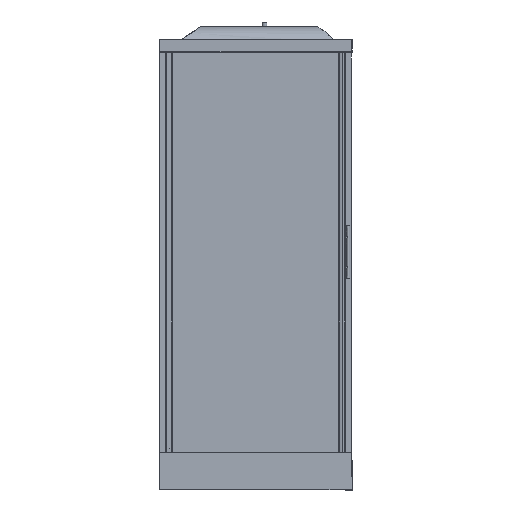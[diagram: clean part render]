
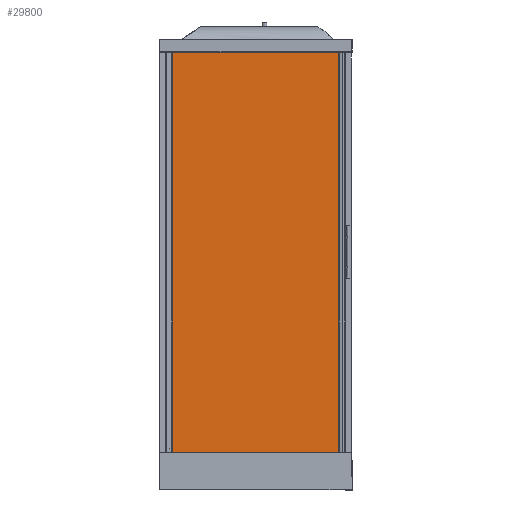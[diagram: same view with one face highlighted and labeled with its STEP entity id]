
A CAD part, left-side view. The second image highlights one B-rep face of the part: STEP entity #29800.
In plain terms, the highlighted planar face has unit normal (-1, 0, 0).
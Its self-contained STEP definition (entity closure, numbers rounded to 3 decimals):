
#29680=CARTESIAN_POINT('',(-865.853,-55.82,164.56));
#29681=VERTEX_POINT('',#29680);
#29688=CARTESIAN_POINT('',(-865.853,-55.82,2061.56));
#29689=VERTEX_POINT('',#29688);
#29690=CARTESIAN_POINT('',(-865.853,-55.82,2061.56));
#29691=DIRECTION('',(0.0,0.0,-1.0));
#29692=VECTOR('',#29691,1897.0);
#29693=LINE('',#29690,#29692);
#29694=EDGE_CURVE('',#29689,#29681,#29693,.T.);
#29719=CARTESIAN_POINT('',(-865.853,-848.82,164.56));
#29720=VERTEX_POINT('',#29719);
#29727=CARTESIAN_POINT('',(-865.853,-55.82,164.56));
#29728=DIRECTION('',(0.0,-1.0,0.0));
#29729=VECTOR('',#29728,793.);
#29730=LINE('',#29727,#29729);
#29731=EDGE_CURVE('',#29681,#29720,#29730,.T.);
#29766=CARTESIAN_POINT('',(-865.853,-848.82,2061.56));
#29767=VERTEX_POINT('',#29766);
#29768=CARTESIAN_POINT('',(-865.853,-55.82,2061.56));
#29769=DIRECTION('',(0.0,-1.0,0.0));
#29770=VECTOR('',#29769,793.);
#29771=LINE('',#29768,#29770);
#29772=EDGE_CURVE('',#29689,#29767,#29771,.T.);
#29784=CARTESIAN_POINT('',(-865.853,-26.17,69.71));
#29785=DIRECTION('',(-1.0,0.0,0.0));
#29786=DIRECTION('',(0.0,-1.0,0.0));
#29787=AXIS2_PLACEMENT_3D('',#29784,#29785,#29786);
#29788=PLANE('',#29787);
#29789=ORIENTED_EDGE('',*,*,#29694,.T.);
#29790=ORIENTED_EDGE('',*,*,#29731,.T.);
#29791=CARTESIAN_POINT('',(-865.853,-848.82,164.56));
#29792=DIRECTION('',(0.0,0.0,1.0));
#29793=VECTOR('',#29792,1897.0);
#29794=LINE('',#29791,#29793);
#29795=EDGE_CURVE('',#29720,#29767,#29794,.T.);
#29796=ORIENTED_EDGE('',*,*,#29795,.T.);
#29797=ORIENTED_EDGE('',*,*,#29772,.F.);
#29798=EDGE_LOOP('',(#29789,#29790,#29796,#29797));
#29799=FACE_OUTER_BOUND('',#29798,.T.);
#29800=ADVANCED_FACE('',(#29799),#29788,.T.);
